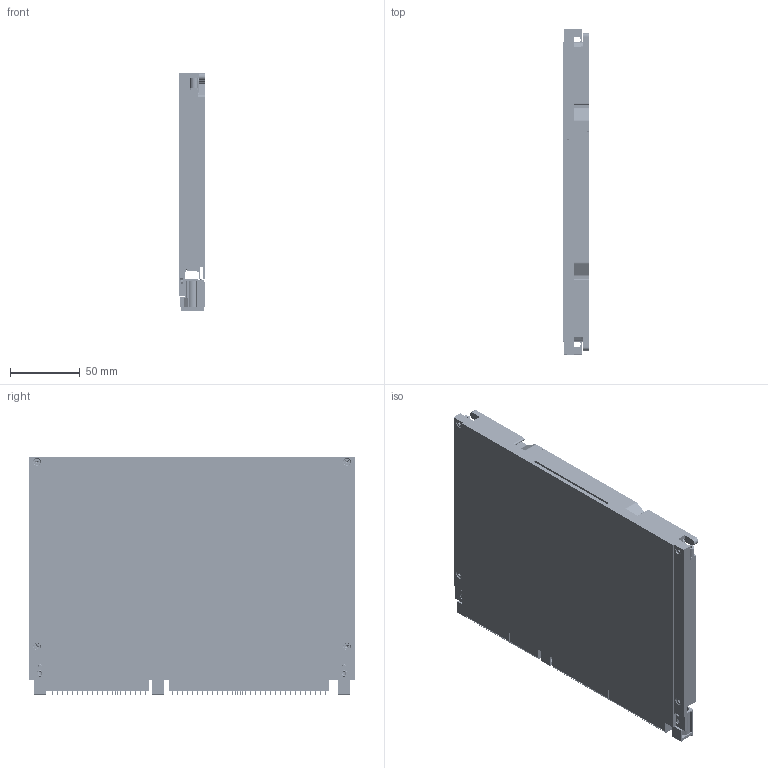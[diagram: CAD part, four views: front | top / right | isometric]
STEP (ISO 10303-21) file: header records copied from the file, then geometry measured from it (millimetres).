
FILE_DESCRIPTION (( 'STEP AP214' ), '1' );
FILE_NAME ('6U-VPX48.2-PS-265-82793.STEP', '2018-06-18T21:12:18', ( '' ), ( '' ), 'SwSTEP 2.0', 'SolidWorks 2014', '' );
FILE_SCHEMA (( 'AUTOMOTIVE_DESIGN' ));
Length unit declared in the file: millimetre
Products named in the file (21): 480-023_SDG; 322307-18_92010A016; 82793-F_82793R-F-NLE; 82793-F_82793L-F-NLE; FRAME_82793_6UVPX48.2-800-265 PSR; PMC-XMC COVER; SECONDARY SIDE COVER; 6U-VPX48.2-PS-265-82793; Single Mezzanine board assembly; c-2102060-1-e-3d; 714362164; PMC-XMC BOARD_PMC XMC VITA 20 VITA 42; VPX BOARD ASSEMBLY_6UXMC VITA 42; 714390164; c-2102061-1-g-3d; 1410189-3; 1774226_1-1469492-9; 1410187-3; VPX BOARD_6U VITA 42 SINGLE XMC PMC; CCA FRAME ASSEMBLY_82793_6UVPX48.2-800-265 FRAME ASSEMBLY PSR; 265-5.00
Assembly tree (54 placements, depth 3):
  6U-VPX48.2-PS-265-82793
    CCA FRAME ASSEMBLY_82793_6UVPX48.2-800-265 FRAME ASSEMBLY PSR
      FRAME_82793_6UVPX48.2-800-265 PSR
      82793-F_82793L-F-NLE
      82793-F_82793R-F-NLE
      322307-18_92010A016  x6
      480-023_SDG  x2
      265-5.00  x2
    VPX BOARD ASSEMBLY_6UXMC VITA 42
      VPX BOARD_6U VITA 42 SINGLE XMC PMC
      1410187-3  x6
      1774226_1-1469492-9  x3
      1410189-3
      c-2102061-1-g-3d  x2
      714390164  x4
    Single Mezzanine board assembly
      PMC-XMC BOARD_PMC XMC VITA 20 VITA 42
      714362164  x4
      c-2102060-1-e-3d  x2
    SECONDARY SIDE COVER
    PMC-XMC COVER
    322307-18_92010A016  x12
Bounding box: 19.09 x 233.35 x 170.75 mm (x, y, z)
Volume: 323554.1 mm3; surface area: 369794.1 mm2
Topology: 307 solids, 307 shells, 24941 faces, 66967 edges, 44185 vertices
Faces by surface type: plane 21539, cylinder 2501, bspline 579, cone 322
Full cylindrical faces by diameter (mm): 0.43 x26, 0.5 x228, 1.05 x33, 1.2 x16, 1.6 x10, 2.05 x8, 2.2 x15, 2.381 x8, 2.5 x180, 2.55 x18, 2.7 x20, 2.9 x10, 3 x3, 3.1 x8, 4.65 x3, 5.5 x18, 5.715 x2, 5.9 x3
Entity records: 258012 total; most frequent: CARTESIAN_POINT 66373, ORIENTED_EDGE 39446, DIRECTION 36191, EDGE_CURVE 19723, LINE 17337, VECTOR 17337, VERTEX_POINT 13233, EDGE_LOOP 9484
